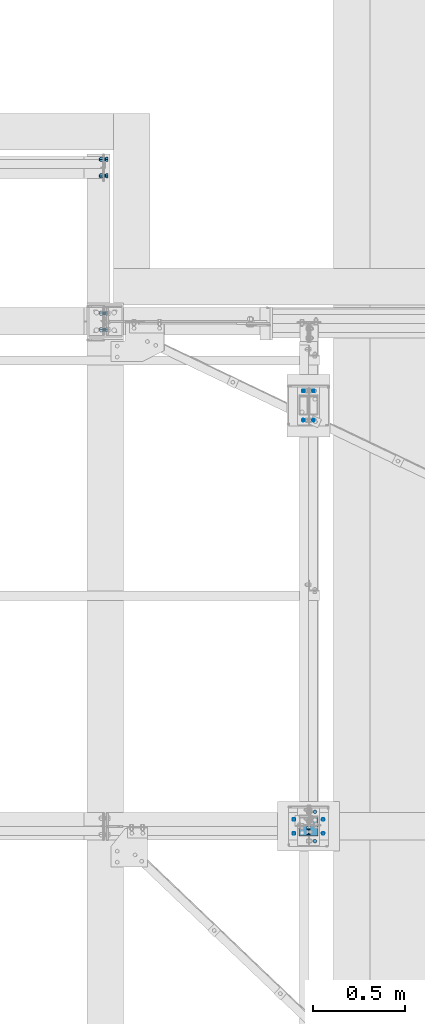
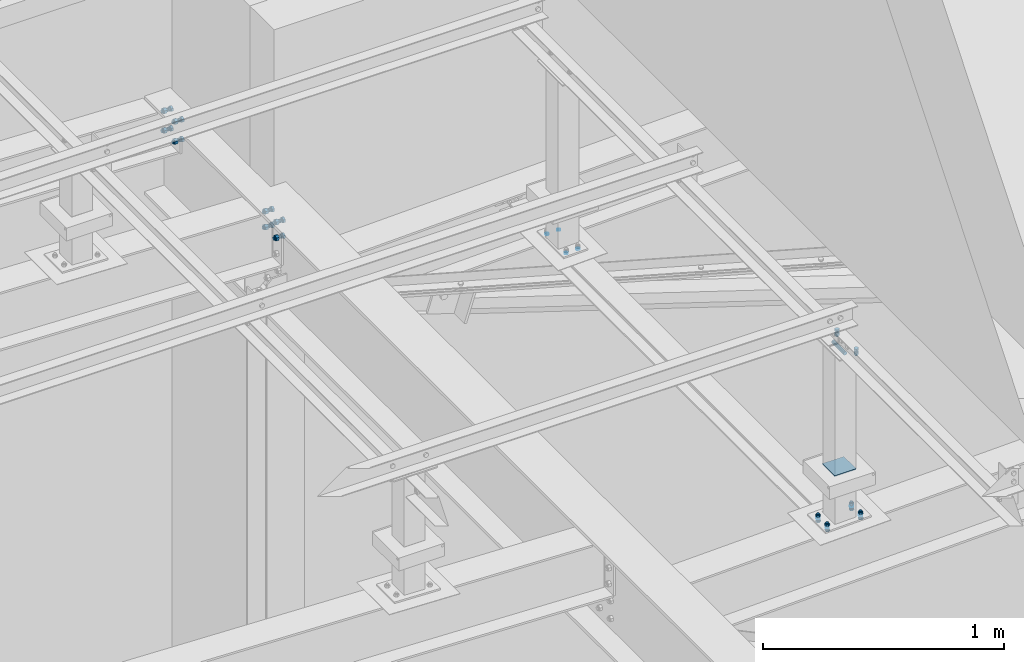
# One storey, part 219 of 3134: 10 mechanical fasteners, 6 elements without a shape of their own.
"""IFC2X3 building model written with IfcOpenShell, lengths in millimetres."""

from ifc_helpers import new_model, si_unit, frame, origin_with_axes, place, context, subcontext, project, spatial, faceted_brep, source, transform, mapped, material, type_object, element, aggregate, save


model = new_model("IFC2X3")

# Units and contexts
model_context = context("Model", 3, precision=1e-05, world=origin_with_axes())
body_context = subcontext(model_context, "Body", "Model", "MODEL_VIEW")
ifc_project = project(units=[si_unit("LENGTHUNIT", "METRE", prefix="MILLI"), si_unit("AREAUNIT", "SQUARE_METRE"), si_unit("VOLUMEUNIT", "CUBIC_METRE"), si_unit("MASSUNIT", "GRAM", prefix="KILO"), si_unit("TIMEUNIT", "SECOND"), si_unit("PLANEANGLEUNIT", "RADIAN"), si_unit("SOLIDANGLEUNIT", "STERADIAN"), si_unit("THERMODYNAMICTEMPERATUREUNIT", "DEGREE_CELSIUS"), si_unit("LUMINOUSINTENSITYUNIT", "LUMEN")], contexts=[model_context])

# Site, building, storey
site_placement = place(None, origin_with_axes())
site = spatial("IfcSite", under=ifc_project, at=site_placement, CompositionType="ELEMENT")
building_placement = place(site_placement, origin_with_axes())
building = spatial("IfcBuilding", under=site, at=building_placement, Name="Undefined", CompositionType="ELEMENT")
storey_placement = place(building_placement, origin_with_axes())
storey = spatial("IfcBuildingStorey", under=building, at=storey_placement, Name="Undefined", CompositionType="ELEMENT", Elevation=0.0)

# Assembly, mechanical fastener
assembly_1_placement = place(storey_placement, origin_with_axes())
assembly_1 = element("IfcElementAssembly", 1, at=assembly_1_placement, inside=storey, AssemblyPlace="NOTDEFINED", PredefinedType="RIGID_FRAME")
ifc_material_1 = material(Name="8.8")
mechanical_fastener_type = type_object("IfcMechanicalFastenerType", Name="Bolt assembly")
shared_shape_1 = source(origin_with_axes(), body_context, "Body", "Brep", [
    faceted_brep([(10.9696551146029, -14.0, 0.0), (5.48482755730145, -14.0, 9.5), (-5.48482755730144, -14.0, 9.5), (-10.9696551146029, -14.0, 1.34339530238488e-15), (-5.48482755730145, -14.0, -9.5), (5.48482755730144, -14.0, -9.50000000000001), (5.48482755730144, -6.0, -9.50000000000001), (-5.48482755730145, -6.0, -9.5), (-10.9696551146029, -6.0, 1.34339530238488e-15), (-5.48482755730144, -6.0, 9.5), (5.48482755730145, -6.0, 9.5), (10.9696551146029, -6.0, 0.0), (6.0, -6.0, 0.0), (5.19615242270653, -6.0, 3.00000000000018), (2.99999999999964, -6.0, 5.19615242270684), (-6.21801588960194e-13, -6.0, 6.0), (-3.00000000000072, -6.0, 5.19615242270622), (-5.19615242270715, -6.0, 2.9999999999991), (-6.0, -6.0, -1.24360317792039e-12), (-5.19615242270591, -6.0, -3.00000000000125), (-2.99999999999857, -6.0, -5.19615242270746), (1.85874342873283e-12, -6.0, -6.0), (3.00000000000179, -6.0, -5.1961524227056), (5.19615242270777, -6.0, -2.99999999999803), (5.19615242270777, 24.0, -2.99999999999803), (3.00000000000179, 24.0, -5.1961524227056), (1.85874342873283e-12, 24.0, -6.0), (-2.99999999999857, 24.0, -5.19615242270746), (-5.19615242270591, 24.0, -3.00000000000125), (-6.0, 24.0, -1.24360317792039e-12), (-5.19615242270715, 24.0, 2.9999999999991), (-3.00000000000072, 24.0, 5.19615242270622), (-6.21801588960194e-13, 24.0, 6.0), (2.99999999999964, 24.0, 5.19615242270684), (5.19615242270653, 24.0, 3.00000000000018), (6.0, 24.0, 0.0), (10.9696551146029, 6.00000000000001, 0.0), (5.48482755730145, 6.00000000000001, 9.5), (-5.48482755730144, 6.00000000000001, 9.5), (-10.9696551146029, 6.00000000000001, 1.34339530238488e-15), (-5.48482755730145, 6.00000000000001, -9.5), (5.48482755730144, 6.00000000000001, -9.50000000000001), (5.48482755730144, 16.0, -9.50000000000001), (-5.48482755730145, 16.0, -9.5), (-10.9696551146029, 16.0, 1.34339530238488e-15), (-5.48482755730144, 16.0, 9.5), (5.48482755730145, 16.0, 9.5), (10.9696551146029, 16.0, 0.0)], [[[0, 1, 2, 3, 4, 5]], [[6, 7, 8, 9, 10, 11]], [[0, 11, 10, 1]], [[1, 10, 9, 2]], [[2, 9, 8, 3]], [[3, 8, 7, 4]], [[4, 7, 6, 5]], [[5, 6, 11, 0]], [[12, 13, 14, 15, 16, 17, 18, 19, 20, 21, 22, 23]], [[24, 25, 26, 27, 28, 29, 30, 31, 32, 33, 34, 35]], [[12, 35, 34, 13]], [[13, 34, 33, 14]], [[14, 33, 32, 15]], [[15, 32, 31, 16]], [[16, 31, 30, 17]], [[17, 30, 29, 18]], [[18, 29, 28, 19]], [[19, 28, 27, 20]], [[20, 27, 26, 21]], [[21, 26, 25, 22]], [[22, 25, 24, 23]], [[23, 24, 35, 12]], [[36, 37, 38, 39, 40, 41]], [[42, 43, 44, 45, 46, 47]], [[36, 47, 46, 37]], [[37, 46, 45, 38]], [[38, 45, 44, 39]], [[39, 44, 43, 40]], [[40, 43, 42, 41]], [[41, 42, 47, 36]]]),
    faceted_brep([(7.0, -0.1, 0.0), (6.06217782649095, -0.1, 3.50000000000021), (3.49999999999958, -0.1, 6.06217782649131), (-7.25435187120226e-13, -0.1, 7.0), (-3.50000000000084, -0.1, 6.06217782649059), (-6.06217782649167, -0.1, 3.49999999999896), (-7.0, -0.1, -1.45087037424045e-12), (-6.06217782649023, -0.1, -3.50000000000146), (-3.49999999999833, -0.1, -6.06217782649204), (2.1685340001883e-12, -0.1, -7.0), (3.50000000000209, -0.1, -6.06217782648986), (6.0621778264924, -0.1, -3.4999999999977), (6.0621778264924, 6.00000000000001, -3.4999999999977), (3.50000000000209, 6.00000000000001, -6.06217782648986), (2.1685340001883e-12, 6.00000000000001, -7.0), (-3.49999999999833, 6.00000000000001, -6.06217782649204), (-6.06217782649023, 6.00000000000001, -3.50000000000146), (-7.0, 6.00000000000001, -1.45087037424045e-12), (-6.06217782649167, 6.00000000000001, 3.49999999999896), (-3.50000000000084, 6.00000000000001, 6.06217782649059), (-7.25435187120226e-13, 6.00000000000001, 7.0), (3.49999999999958, 6.00000000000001, 6.06217782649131), (6.06217782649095, 6.00000000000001, 3.50000000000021), (7.0, 6.00000000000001, 0.0), (7.0, -5.9, 0.0), (6.06217782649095, -5.9, 3.50000000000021), (3.49999999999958, -5.9, 6.06217782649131), (-7.25435187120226e-13, -5.9, 7.0), (-3.50000000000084, -5.9, 6.06217782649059), (-6.06217782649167, -5.9, 3.49999999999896), (-7.0, -5.9, -1.45087037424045e-12), (-6.06217782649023, -5.9, -3.50000000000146), (-3.49999999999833, -5.9, -6.06217782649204), (2.1685340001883e-12, -5.9, -7.0), (3.50000000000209, -5.9, -6.06217782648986), (6.0621778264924, -5.9, -3.4999999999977), (6.0621778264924, 0.0999999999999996, -3.4999999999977), (3.50000000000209, 0.0999999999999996, -6.06217782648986), (2.1685340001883e-12, 0.0999999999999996, -7.0), (-3.49999999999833, 0.0999999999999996, -6.06217782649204), (-6.06217782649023, 0.0999999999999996, -3.50000000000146), (-7.0, 0.0999999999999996, -1.45087037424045e-12), (-6.06217782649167, 0.0999999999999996, 3.49999999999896), (-3.50000000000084, 0.0999999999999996, 6.06217782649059), (-7.25435187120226e-13, 0.0999999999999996, 7.0), (3.49999999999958, 0.0999999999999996, 6.06217782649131), (6.06217782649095, 0.0999999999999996, 3.50000000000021), (7.0, 0.0999999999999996, 0.0)], [[[0, 1, 2, 3, 4, 5, 6, 7, 8, 9, 10, 11]], [[12, 13, 14, 15, 16, 17, 18, 19, 20, 21, 22, 23]], [[0, 23, 22, 1]], [[1, 22, 21, 2]], [[2, 21, 20, 3]], [[3, 20, 19, 4]], [[4, 19, 18, 5]], [[5, 18, 17, 6]], [[6, 17, 16, 7]], [[7, 16, 15, 8]], [[8, 15, 14, 9]], [[9, 14, 13, 10]], [[10, 13, 12, 11]], [[11, 12, 23, 0]], [[24, 25, 26, 27, 28, 29, 30, 31, 32, 33, 34, 35]], [[36, 37, 38, 39, 40, 41, 42, 43, 44, 45, 46, 47]], [[24, 47, 46, 25]], [[25, 46, 45, 26]], [[26, 45, 44, 27]], [[27, 44, 43, 28]], [[28, 43, 42, 29]], [[29, 42, 41, 30]], [[30, 41, 40, 31]], [[31, 40, 39, 32]], [[32, 39, 38, 33]], [[33, 38, 37, 34]], [[34, 37, 36, 35]], [[35, 36, 47, 24]]]),
])
mechanical_fastener_1_placement = place(assembly_1_placement, frame((10440.0, 45766.66, 4265.0), z_axis=(0.0, -1.0, 0.0), x_axis=(-1.0, 0.0, 0.0)))
mechanical_fastener_1 = element("IfcMechanicalFastener", 2, at=mechanical_fastener_1_placement, type_object=mechanical_fastener_type, material=ifc_material_1, Name="Bolt assembly", NominalDiameter=12.0, NominalLength=30.0, context=body_context, shape_type="MappedRepresentation", body=[
    mapped(shared_shape_1, transform((0.0, -5.32963895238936e-10, -79.9999999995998))),
    mapped(shared_shape_1, transform((0.0, 5.3114490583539e-10, 79.9999999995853))),
])
aggregate(assembly_1, [mechanical_fastener_1])

# Assembly, mechanical fasteners
assembly_2_placement = place(storey_placement, origin_with_axes())
assembly_2 = element("IfcElementAssembly", 3, at=assembly_2_placement, inside=storey, Name="IPE500", AssemblyPlace="NOTDEFINED", PredefinedType="RIGID_FRAME")
shared_shape_2 = source(origin_with_axes(), body_context, "Body", "Brep", [
    faceted_brep([(13.856406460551, 0.0, 0.0), (6.92820323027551, 0.0, 12.0), (-6.92820323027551, 0.0, 12.0), (-13.856406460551, 0.0, 1.69692038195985e-15), (-6.92820323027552, 0.0, -12.0), (6.9282032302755, 0.0, -12.0), (6.9282032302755, 9.99999995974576, -12.0), (-6.92820323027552, 9.99999995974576, -12.0), (-13.856406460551, 9.99999995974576, 1.69692038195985e-15), (-6.92820323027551, 9.99999995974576, 12.0), (6.92820323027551, 9.99999995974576, 12.0), (13.856406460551, 9.99999995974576, 0.0), (8.0, 9.99999995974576, 0.0), (6.92820323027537, 9.99999995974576, 4.00000000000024), (3.99999999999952, 9.99999995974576, 6.92820323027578), (-8.29068785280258e-13, 9.99999995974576, 8.0), (-4.00000000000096, 9.99999995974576, 6.92820323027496), (-6.9282032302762, 9.99999995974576, 3.99999999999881), (-8.0, 9.99999995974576, -1.65813757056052e-12), (-6.92820323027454, 9.99999995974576, -4.00000000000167), (-3.99999999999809, 9.99999995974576, -6.92820323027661), (2.47832457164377e-12, 9.99999995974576, -8.0), (4.00000000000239, 9.99999995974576, -6.92820323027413), (6.92820323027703, 9.99999995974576, -3.99999999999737), (6.92820323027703, 49.9999999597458, -3.99999999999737), (4.00000000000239, 49.9999999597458, -6.92820323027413), (2.47832457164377e-12, 49.9999999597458, -8.0), (-3.99999999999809, 49.9999999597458, -6.92820323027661), (-6.92820323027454, 49.9999999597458, -4.00000000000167), (-8.0, 49.9999999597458, -1.65813757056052e-12), (-6.9282032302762, 49.9999999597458, 3.99999999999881), (-4.00000000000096, 49.9999999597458, 6.92820323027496), (-8.29068785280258e-13, 49.9999999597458, 8.0), (3.99999999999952, 49.9999999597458, 6.92820323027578), (6.92820323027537, 49.9999999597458, 4.00000000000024), (8.0, 49.9999999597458, 0.0), (13.856406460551, 30.1999997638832, 0.0), (6.92820323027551, 30.1999997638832, 12.0), (-6.92820323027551, 30.1999997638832, 12.0), (-13.856406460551, 30.1999997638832, 1.69692038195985e-15), (-6.92820323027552, 30.1999997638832, -12.0), (6.9282032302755, 30.1999997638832, -12.0), (6.9282032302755, 43.1999997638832, -12.0), (-6.92820323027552, 43.1999997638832, -12.0), (-13.856406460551, 43.1999997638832, 1.69692038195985e-15), (-6.92820323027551, 43.1999997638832, 12.0), (6.92820323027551, 43.1999997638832, 12.0), (13.856406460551, 43.1999997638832, 0.0)], [[[0, 1, 2, 3, 4, 5]], [[6, 7, 8, 9, 10, 11]], [[0, 11, 10, 1]], [[1, 10, 9, 2]], [[2, 9, 8, 3]], [[3, 8, 7, 4]], [[4, 7, 6, 5]], [[5, 6, 11, 0]], [[12, 13, 14, 15, 16, 17, 18, 19, 20, 21, 22, 23]], [[24, 25, 26, 27, 28, 29, 30, 31, 32, 33, 34, 35]], [[12, 35, 34, 13]], [[13, 34, 33, 14]], [[14, 33, 32, 15]], [[15, 32, 31, 16]], [[16, 31, 30, 17]], [[17, 30, 29, 18]], [[18, 29, 28, 19]], [[19, 28, 27, 20]], [[20, 27, 26, 21]], [[21, 26, 25, 22]], [[22, 25, 24, 23]], [[23, 24, 35, 12]], [[36, 37, 38, 39, 40, 41]], [[42, 43, 44, 45, 46, 47]], [[36, 47, 46, 37]], [[37, 46, 45, 38]], [[38, 45, 44, 39]], [[39, 44, 43, 40]], [[40, 43, 42, 41]], [[41, 42, 47, 36]]]),
    faceted_brep([(9.0, 20.0999997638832, 0.0), (7.79422863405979, 20.0999997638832, 4.50000000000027), (4.49999999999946, 20.0999997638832, 7.79422863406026), (-9.3270238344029e-13, 20.0999997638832, 9.0), (-4.50000000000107, 20.0999997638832, 7.79422863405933), (-7.79422863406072, 20.0999997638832, 4.49999999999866), (-9.0, 20.0999997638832, -1.86540476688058e-12), (-7.79422863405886, 20.0999997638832, -4.50000000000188), (-4.49999999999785, 20.0999997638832, -7.79422863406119), (2.78811514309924e-12, 20.0999997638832, -9.0), (4.50000000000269, 20.0999997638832, -7.7942286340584), (7.79422863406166, 20.0999997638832, -4.49999999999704), (7.79422863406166, 30.1999997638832, -4.49999999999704), (4.50000000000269, 30.1999997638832, -7.7942286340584), (2.78811514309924e-12, 30.1999997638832, -9.0), (-4.49999999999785, 30.1999997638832, -7.79422863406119), (-7.79422863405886, 30.1999997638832, -4.50000000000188), (-9.0, 30.1999997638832, -1.86540476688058e-12), (-7.79422863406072, 30.1999997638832, 4.49999999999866), (-4.50000000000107, 30.1999997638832, 7.79422863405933), (-9.3270238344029e-13, 30.1999997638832, 9.0), (4.49999999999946, 30.1999997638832, 7.79422863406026), (7.79422863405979, 30.1999997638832, 4.50000000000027), (9.0, 30.1999997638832, 0.0), (9.0, 10.1000023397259, 0.0), (7.79422863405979, 10.1000023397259, 4.50000000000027), (4.49999999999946, 10.1000023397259, 7.79422863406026), (-9.3270238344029e-13, 10.1000023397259, 9.0), (-4.50000000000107, 10.1000023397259, 7.79422863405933), (-7.79422863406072, 10.1000023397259, 4.49999999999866), (-9.0, 10.1000023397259, -1.86540476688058e-12), (-7.79422863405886, 10.1000023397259, -4.50000000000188), (-4.49999999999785, 10.1000023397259, -7.79422863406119), (2.78811514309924e-12, 10.1000023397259, -9.0), (4.50000000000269, 10.1000023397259, -7.7942286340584), (7.79422863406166, 10.1000023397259, -4.49999999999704), (7.79422863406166, 20.2999997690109, -4.49999999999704), (4.50000000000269, 20.2999997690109, -7.7942286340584), (2.78811514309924e-12, 20.2999997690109, -9.0), (-4.49999999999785, 20.2999997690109, -7.79422863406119), (-7.79422863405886, 20.2999997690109, -4.50000000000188), (-9.0, 20.2999997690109, -1.86540476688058e-12), (-7.79422863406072, 20.2999997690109, 4.49999999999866), (-4.50000000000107, 20.2999997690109, 7.79422863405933), (-9.3270238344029e-13, 20.2999997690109, 9.0), (4.49999999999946, 20.2999997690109, 7.79422863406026), (7.79422863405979, 20.2999997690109, 4.50000000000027), (9.0, 20.2999997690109, 0.0)], [[[0, 1, 2, 3, 4, 5, 6, 7, 8, 9, 10, 11]], [[12, 13, 14, 15, 16, 17, 18, 19, 20, 21, 22, 23]], [[0, 23, 22, 1]], [[1, 22, 21, 2]], [[2, 21, 20, 3]], [[3, 20, 19, 4]], [[4, 19, 18, 5]], [[5, 18, 17, 6]], [[6, 17, 16, 7]], [[7, 16, 15, 8]], [[8, 15, 14, 9]], [[9, 14, 13, 10]], [[10, 13, 12, 11]], [[11, 12, 23, 0]], [[24, 25, 26, 27, 28, 29, 30, 31, 32, 33, 34, 35]], [[36, 37, 38, 39, 40, 41, 42, 43, 44, 45, 46, 47]], [[24, 47, 46, 25]], [[25, 46, 45, 26]], [[26, 45, 44, 27]], [[27, 44, 43, 28]], [[28, 43, 42, 29]], [[29, 42, 41, 30]], [[30, 41, 40, 31]], [[31, 40, 39, 32]], [[32, 39, 38, 33]], [[33, 38, 37, 34]], [[34, 37, 36, 35]], [[35, 36, 47, 24]]]),
])
mechanical_fastener_2_placement = place(assembly_2_placement, frame((9310.09999986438, 49320.0, 3631.67000001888), z_axis=(0.0, 1.0, 0.0), x_axis=(0.0, 0.0, -1.0)))
mechanical_fastener_2 = element("IfcMechanicalFastener", 4, at=mechanical_fastener_2_placement, type_object=mechanical_fastener_type, material=ifc_material_1, Name="Bolt assembly", NominalDiameter=16.0, NominalLength=40.0, context=body_context, shape_type="MappedRepresentation", body=[
    mapped(shared_shape_2, transform((0.0, 0.0, 0.0))),
    mapped(shared_shape_2, transform((100.0, 0.0, 0.0))),
])
mechanical_fastener_3_placement = place(assembly_2_placement, frame((9310.09999986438, 49410.0, 3631.67000001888), z_axis=(0.0, 1.0, 0.0), x_axis=(0.0, 0.0, -1.0)))
mechanical_fastener_3 = element("IfcMechanicalFastener", 5, at=mechanical_fastener_3_placement, type_object=mechanical_fastener_type, material=ifc_material_1, Name="Bolt assembly", NominalDiameter=16.0, NominalLength=40.0, context=body_context, shape_type="MappedRepresentation", body=[
    mapped(shared_shape_2, transform((0.0, 0.0, 0.0))),
    mapped(shared_shape_2, transform((100.0, 0.0, 0.0))),
])
mechanical_fastener_4_placement = place(assembly_2_placement, frame((9310.09999986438, 48480.0, 3631.67000001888), z_axis=(0.0, 1.0, 0.0), x_axis=(0.0, 0.0, -1.0)))
mechanical_fastener_4 = element("IfcMechanicalFastener", 6, at=mechanical_fastener_4_placement, type_object=mechanical_fastener_type, material=ifc_material_1, Name="Bolt assembly", NominalDiameter=16.0, NominalLength=40.0, context=body_context, shape_type="MappedRepresentation", body=[
    mapped(shared_shape_2, transform((0.0, 0.0, 0.0))),
    mapped(shared_shape_2, transform((80.0, 0.0, 0.0))),
])
mechanical_fastener_5_placement = place(assembly_2_placement, frame((9310.09999986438, 48570.0, 3631.67000001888), z_axis=(0.0, 1.0, 0.0), x_axis=(0.0, 0.0, -1.0)))
mechanical_fastener_5 = element("IfcMechanicalFastener", 7, at=mechanical_fastener_5_placement, type_object=mechanical_fastener_type, material=ifc_material_1, Name="Bolt assembly", NominalDiameter=16.0, NominalLength=40.0, context=body_context, shape_type="MappedRepresentation", body=[
    mapped(shared_shape_2, transform((0.0, 0.0, 0.0))),
    mapped(shared_shape_2, transform((80.0, 0.0, 0.0))),
])
aggregate(assembly_2, [mechanical_fastener_2, mechanical_fastener_3, mechanical_fastener_4, mechanical_fastener_5])

# Assembly, mechanical fastener
assembly_3_placement = place(storey_placement, origin_with_axes())
assembly_3 = element("IfcElementAssembly", 8, at=assembly_3_placement, inside=storey, Name="300", AssemblyPlace="NOTDEFINED", PredefinedType="RIGID_FRAME")
shared_shape_3 = source(origin_with_axes(), body_context, "Body", "Brep", [
    faceted_brep([(10.9696551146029, -4.1984682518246, 0.0), (5.48482755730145, -4.1984682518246, 9.5), (-5.48482755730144, -4.1984682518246, 9.5), (-10.9696551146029, -4.1984682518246, 1.34339530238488e-15), (-5.48482755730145, -4.1984682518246, -9.5), (5.48482755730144, -4.1984682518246, -9.50000000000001), (5.48482755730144, 3.8015317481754, -9.50000000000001), (-5.48482755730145, 3.8015317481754, -9.5), (-10.9696551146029, 3.8015317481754, 1.34339530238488e-15), (-5.48482755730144, 3.8015317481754, 9.5), (5.48482755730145, 3.8015317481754, 9.5), (10.9696551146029, 3.8015317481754, 0.0), (6.0, 3.8015317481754, 0.0), (5.19615242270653, 3.8015317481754, 3.00000000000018), (2.99999999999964, 3.8015317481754, 5.19615242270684), (-6.21801588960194e-13, 3.8015317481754, 6.0), (-3.00000000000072, 3.8015317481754, 5.19615242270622), (-5.19615242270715, 3.8015317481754, 2.9999999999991), (-6.0, 3.8015317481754, -1.24360317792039e-12), (-5.19615242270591, 3.8015317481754, -3.00000000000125), (-2.99999999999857, 3.8015317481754, -5.19615242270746), (1.85874342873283e-12, 3.8015317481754, -6.0), (3.00000000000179, 3.8015317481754, -5.1961524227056), (5.19615242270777, 3.8015317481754, -2.99999999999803), (5.19615242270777, 38.8015317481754, -2.99999999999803), (3.00000000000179, 38.8015317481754, -5.1961524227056), (1.85874342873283e-12, 38.8015317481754, -6.0), (-2.99999999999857, 38.8015317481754, -5.19615242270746), (-5.19615242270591, 38.8015317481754, -3.00000000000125), (-6.0, 38.8015317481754, -1.24360317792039e-12), (-5.19615242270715, 38.8015317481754, 2.9999999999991), (-3.00000000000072, 38.8015317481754, 5.19615242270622), (-6.21801588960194e-13, 38.8015317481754, 6.0), (2.99999999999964, 38.8015317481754, 5.19615242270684), (5.19615242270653, 38.8015317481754, 3.00000000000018), (6.0, 38.8015317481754, 0.0), (10.9696551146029, 23.0039050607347, 0.0), (5.48482755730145, 23.0039050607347, 9.5), (-5.48482755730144, 23.0039050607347, 9.5), (-10.9696551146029, 23.0039050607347, 1.34339530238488e-15), (-5.48482755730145, 23.0039050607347, -9.5), (5.48482755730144, 23.0039050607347, -9.50000000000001), (5.48482755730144, 33.0039050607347, -9.50000000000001), (-5.48482755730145, 33.0039050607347, -9.5), (-10.9696551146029, 33.0039050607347, 1.34339530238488e-15), (-5.48482755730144, 33.0039050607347, 9.5), (5.48482755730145, 33.0039050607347, 9.5), (10.9696551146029, 33.0039050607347, 0.0)], [[[0, 1, 2, 3, 4, 5]], [[6, 7, 8, 9, 10, 11]], [[0, 11, 10, 1]], [[1, 10, 9, 2]], [[2, 9, 8, 3]], [[3, 8, 7, 4]], [[4, 7, 6, 5]], [[5, 6, 11, 0]], [[12, 13, 14, 15, 16, 17, 18, 19, 20, 21, 22, 23]], [[24, 25, 26, 27, 28, 29, 30, 31, 32, 33, 34, 35]], [[12, 35, 34, 13]], [[13, 34, 33, 14]], [[14, 33, 32, 15]], [[15, 32, 31, 16]], [[16, 31, 30, 17]], [[17, 30, 29, 18]], [[18, 29, 28, 19]], [[19, 28, 27, 20]], [[20, 27, 26, 21]], [[21, 26, 25, 22]], [[22, 25, 24, 23]], [[23, 24, 35, 12]], [[36, 37, 38, 39, 40, 41]], [[42, 43, 44, 45, 46, 47]], [[36, 47, 46, 37]], [[37, 46, 45, 38]], [[38, 45, 44, 39]], [[39, 44, 43, 40]], [[40, 43, 42, 41]], [[41, 42, 47, 36]]]),
    faceted_brep([(7.0, 14.9039050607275, 0.0), (6.06217782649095, 14.9039050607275, 3.50000000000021), (3.49999999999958, 14.9039050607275, 6.06217782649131), (-7.25435187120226e-13, 14.9039050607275, 7.0), (-3.50000000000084, 14.9039050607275, 6.06217782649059), (-6.06217782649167, 14.9039050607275, 3.49999999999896), (-7.0, 14.9039050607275, -1.45087037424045e-12), (-6.06217782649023, 14.9039050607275, -3.50000000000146), (-3.49999999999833, 14.9039050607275, -6.06217782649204), (2.1685340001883e-12, 14.9039050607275, -7.0), (3.50000000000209, 14.9039050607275, -6.06217782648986), (6.0621778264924, 14.9039050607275, -3.4999999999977), (6.0621778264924, 23.0039050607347, -3.4999999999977), (3.50000000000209, 23.0039050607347, -6.06217782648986), (2.1685340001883e-12, 23.0039050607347, -7.0), (-3.49999999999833, 23.0039050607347, -6.06217782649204), (-6.06217782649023, 23.0039050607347, -3.50000000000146), (-7.0, 23.0039050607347, -1.45087037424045e-12), (-6.06217782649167, 23.0039050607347, 3.49999999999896), (-3.50000000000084, 23.0039050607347, 6.06217782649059), (-7.25435187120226e-13, 23.0039050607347, 7.0), (3.49999999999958, 23.0039050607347, 6.06217782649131), (6.06217782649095, 23.0039050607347, 3.50000000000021), (7.0, 23.0039050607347, 0.0), (7.0, 3.9015317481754, 0.0), (6.06217782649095, 3.9015317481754, 3.50000000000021), (3.49999999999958, 3.9015317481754, 6.06217782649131), (-7.25435187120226e-13, 3.9015317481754, 7.0), (-3.50000000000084, 3.9015317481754, 6.06217782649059), (-6.06217782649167, 3.9015317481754, 3.49999999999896), (-7.0, 3.9015317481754, -1.45087037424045e-12), (-6.06217782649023, 3.9015317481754, -3.50000000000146), (-3.49999999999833, 3.9015317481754, -6.06217782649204), (2.1685340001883e-12, 3.9015317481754, -7.0), (3.50000000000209, 3.9015317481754, -6.06217782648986), (6.0621778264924, 3.9015317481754, -3.4999999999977), (6.0621778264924, 13.1015315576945, -3.4999999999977), (3.50000000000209, 13.1015315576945, -6.06217782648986), (2.1685340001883e-12, 13.1015315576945, -7.0), (-3.49999999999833, 13.1015315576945, -6.06217782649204), (-6.06217782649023, 13.1015315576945, -3.50000000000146), (-7.0, 13.1015315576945, -1.45087037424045e-12), (-6.06217782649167, 13.1015315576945, 3.49999999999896), (-3.50000000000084, 13.1015315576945, 6.06217782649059), (-7.25435187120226e-13, 13.1015315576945, 7.0), (3.49999999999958, 13.1015315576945, 6.06217782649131), (6.06217782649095, 13.1015315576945, 3.50000000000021), (7.0, 13.1015315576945, 0.0)], [[[0, 1, 2, 3, 4, 5, 6, 7, 8, 9, 10, 11]], [[12, 13, 14, 15, 16, 17, 18, 19, 20, 21, 22, 23]], [[0, 23, 22, 1]], [[1, 22, 21, 2]], [[2, 21, 20, 3]], [[3, 20, 19, 4]], [[4, 19, 18, 5]], [[5, 18, 17, 6]], [[6, 17, 16, 7]], [[7, 16, 15, 8]], [[8, 15, 14, 9]], [[9, 14, 13, 10]], [[10, 13, 12, 11]], [[11, 12, 23, 0]], [[24, 25, 26, 27, 28, 29, 30, 31, 32, 33, 34, 35]], [[36, 37, 38, 39, 40, 41, 42, 43, 44, 45, 46, 47]], [[24, 47, 46, 25]], [[25, 46, 45, 26]], [[26, 45, 44, 27]], [[27, 44, 43, 28]], [[28, 43, 42, 29]], [[29, 42, 41, 30]], [[30, 41, 40, 31]], [[31, 40, 39, 32]], [[32, 39, 38, 33]], [[33, 38, 37, 34]], [[34, 37, 36, 35]], [[35, 36, 47, 24]]]),
])
mechanical_fastener_6_placement = place(assembly_3_placement, frame((10405.7748812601, 45728.66, 3374.2272055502), z_axis=(0.999519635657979, 0.0, 0.0309919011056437), x_axis=(0.0, 1.0, 0.0)))
mechanical_fastener_6 = element("IfcMechanicalFastener", 9, at=mechanical_fastener_6_placement, type_object=mechanical_fastener_type, material=ifc_material_1, Name="Bolt assembly", NominalDiameter=12.0, NominalLength=35.0, context=body_context, shape_type="MappedRepresentation", body=[
    mapped(shared_shape_3, transform((0.0, -5.32963895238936e-10, -79.9999999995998))),
    mapped(shared_shape_3, transform((76.0, -5.32963895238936e-10, -79.9999999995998))),
    mapped(shared_shape_3, transform((0.0, 5.3114490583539e-10, 79.9999999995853))),
    mapped(shared_shape_3, transform((76.0, 5.3114490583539e-10, 79.9999999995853))),
])
aggregate(assembly_3, [mechanical_fastener_6])

assembly_4_placement = place(storey_placement, origin_with_axes())
assembly_4 = element("IfcElementAssembly", 10, at=assembly_4_placement, inside=storey, AssemblyPlace="NOTDEFINED", PredefinedType="RIGID_FRAME")
shared_shape_4 = source(origin_with_axes(), body_context, "Body", "Brep", [
    faceted_brep([(7.0, 13.0000253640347, 0.0), (6.06217782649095, 13.0000253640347, 3.50000000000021), (3.49999999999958, 13.0000253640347, 6.06217782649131), (-7.25435187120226e-13, 13.0000253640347, 7.0), (-3.50000000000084, 13.0000253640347, 6.06217782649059), (-6.06217782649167, 13.0000253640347, 3.49999999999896), (-7.0, 13.0000253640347, -1.45087037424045e-12), (-6.06217782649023, 13.0000253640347, -3.50000000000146), (-3.49999999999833, 13.0000253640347, -6.06217782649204), (2.1685340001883e-12, 13.0000253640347, -7.0), (3.50000000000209, 13.0000253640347, -6.06217782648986), (6.0621778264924, 13.0000253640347, -3.4999999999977), (6.0621778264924, 15.0999999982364, -3.4999999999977), (3.50000000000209, 15.0999999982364, -6.06217782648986), (2.1685340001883e-12, 15.0999999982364, -7.0), (-3.49999999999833, 15.0999999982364, -6.06217782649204), (-6.06217782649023, 15.0999999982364, -3.50000000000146), (-7.0, 15.0999999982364, -1.45087037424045e-12), (-6.06217782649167, 15.0999999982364, 3.49999999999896), (-3.50000000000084, 15.0999999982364, 6.06217782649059), (-7.25435187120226e-13, 15.0999999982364, 7.0), (3.49999999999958, 15.0999999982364, 6.06217782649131), (6.06217782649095, 15.0999999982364, 3.50000000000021), (7.0, 15.0999999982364, 0.0)], [[[0, 1, 2, 3, 4, 5, 6, 7, 8, 9, 10, 11]], [[12, 13, 14, 15, 16, 17, 18, 19, 20, 21, 22, 23]], [[0, 23, 22, 1]], [[1, 22, 21, 2]], [[2, 21, 20, 3]], [[3, 20, 19, 4]], [[4, 19, 18, 5]], [[5, 18, 17, 6]], [[6, 17, 16, 7]], [[7, 16, 15, 8]], [[8, 15, 14, 9]], [[9, 14, 13, 10]], [[10, 13, 12, 11]], [[11, 12, 23, 0]]]),
])
mechanical_fastener_7_placement = place(assembly_4_placement, frame((10433.639796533, 48064.9983647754, 3375.07493090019), z_axis=(0.0, 1.0, 0.0), x_axis=(-0.999519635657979, 0.0, -0.0309919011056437)))
mechanical_fastener_7 = element("IfcMechanicalFastener", 11, at=mechanical_fastener_7_placement, type_object=mechanical_fastener_type, material=ifc_material_1, Name="Bolt assembly", NominalDiameter=12.0, NominalLength=2.0, context=body_context, shape_type="MappedRepresentation", body=[
    mapped(shared_shape_4, transform((0.0, 5.3114490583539e-10, 79.9999999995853))),
    mapped(shared_shape_4, transform((55.9999999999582, 4.54747350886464e-13, 80.0))),
    mapped(shared_shape_4, transform((0.0, -5.32963895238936e-10, -79.9999999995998))),
    mapped(shared_shape_4, transform((55.9999999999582, 4.54747350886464e-13, -80.0))),
])
aggregate(assembly_4, [mechanical_fastener_7])

assembly_5_placement = place(storey_placement, origin_with_axes())
assembly_5 = element("IfcElementAssembly", 12, at=assembly_5_placement, inside=storey, AssemblyPlace="NOTDEFINED", PredefinedType="RIGID_FRAME")
mechanical_fastener_8_placement = place(assembly_5_placement, frame((10405.7748812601, 45728.66, 3374.2272055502), z_axis=(0.999519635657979, 0.0, 0.0309919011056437), x_axis=(0.0, 1.0, 0.0)))
mechanical_fastener_8 = element("IfcMechanicalFastener", 13, at=mechanical_fastener_8_placement, type_object=mechanical_fastener_type, material=ifc_material_1, Name="Bolt assembly", NominalDiameter=12.0, NominalLength=2.0, context=body_context, shape_type="MappedRepresentation", body=[
    mapped(shared_shape_4, transform((0.0, -5.32963895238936e-10, -79.9999999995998))),
    mapped(shared_shape_4, transform((76.0, -5.32963895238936e-10, -79.9999999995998))),
    mapped(shared_shape_4, transform((0.0, 5.3114490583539e-10, 79.9999999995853))),
    mapped(shared_shape_4, transform((76.0, 5.3114490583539e-10, 79.9999999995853))),
])
aggregate(assembly_5, [mechanical_fastener_8])

# Assembly, mechanical fasteners
assembly_6_placement = place(storey_placement, origin_with_axes())
assembly_6 = element("IfcElementAssembly", 14, at=assembly_6_placement, inside=storey, AssemblyPlace="NOTDEFINED", PredefinedType="RIGID_FRAME")
shared_shape_5 = source(origin_with_axes(), body_context, "Body", "Brep", [
    faceted_brep([(9.0, -50.0, 0.0), (7.79422863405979, -50.0, 4.50000000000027), (4.49999999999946, -50.0, 7.79422863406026), (-9.3270238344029e-13, -50.0, 9.0), (-4.50000000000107, -50.0, 7.79422863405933), (-7.79422863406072, -50.0, 4.49999999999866), (-9.0, -50.0, -1.86540476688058e-12), (-7.79422863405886, -50.0, -4.50000000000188), (-4.49999999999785, -50.0, -7.79422863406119), (2.78811514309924e-12, -50.0, -9.0), (4.50000000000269, -50.0, -7.7942286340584), (7.79422863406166, -50.0, -4.49999999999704), (7.79422863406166, 50.1, -4.49999999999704), (4.50000000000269, 50.1, -7.7942286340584), (2.78811514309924e-12, 50.1, -9.0), (-4.49999999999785, 50.1, -7.79422863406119), (-7.79422863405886, 50.1, -4.50000000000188), (-9.0, 50.1, -1.86540476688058e-12), (-7.79422863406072, 50.1, 4.49999999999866), (-4.50000000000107, 50.1, 7.79422863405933), (-9.3270238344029e-13, 50.1, 9.0), (4.49999999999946, 50.1, 7.79422863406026), (7.79422863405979, 50.1, 4.50000000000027), (9.0, 50.1, 0.0)], [[[0, 1, 2, 3, 4, 5, 6, 7, 8, 9, 10, 11]], [[12, 13, 14, 15, 16, 17, 18, 19, 20, 21, 22, 23]], [[0, 23, 22, 1]], [[1, 22, 21, 2]], [[2, 21, 20, 3]], [[3, 20, 19, 4]], [[4, 19, 18, 5]], [[5, 18, 17, 6]], [[6, 17, 16, 7]], [[7, 16, 15, 8]], [[8, 15, 14, 9]], [[9, 14, 13, 10]], [[10, 13, 12, 11]], [[11, 12, 23, 0]]]),
])
mechanical_fastener_9_placement = place(assembly_6_placement, frame((10405.0, 45766.66, 4245.0), z_axis=(-1.0, 0.0, 0.0), x_axis=(0.0, 0.0, 1.0)))
mechanical_fastener_9 = element("IfcMechanicalFastener", 15, at=mechanical_fastener_9_placement, type_object=mechanical_fastener_type, material=ifc_material_1, Name="Bolt assembly", NominalDiameter=16.0, NominalLength=100.0, context=body_context, shape_type="MappedRepresentation", body=[
    mapped(shared_shape_5, transform((0.0, 0.0, 0.0))),
])
ifc_material_2 = material(Name="6.8")
shared_shape_6 = source(origin_with_axes(), body_context, "Body", "Brep", [
    faceted_brep([(51.5, 1.36424205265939e-12, 50.0), (51.3858192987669, 1.36424205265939e-12, 50.5740251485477), (51.0606601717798, 1.36424205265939e-12, 51.0606601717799), (50.5740251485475, 1.36424205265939e-12, 51.385819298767), (-50.0000000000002, 1.36424205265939e-12, 51.5), (-50.7500000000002, 1.36424205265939e-12, 51.2990381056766), (-51.2990381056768, 1.36424205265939e-12, 50.7499999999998), (-51.5, 1.36424205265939e-12, 49.9999999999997), (-51.5, 1.36424205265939e-12, -50.0000000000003), (-51.2990381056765, 1.36424205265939e-12, -50.7500000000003), (-50.7499999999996, 1.36424205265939e-12, -51.2990381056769), (-49.9999999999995, 1.36424205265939e-12, -51.5), (50.0000000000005, 1.36424205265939e-12, -51.5), (50.7500000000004, 1.36424205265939e-12, -51.2990381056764), (51.2990381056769, 1.36424205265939e-12, -50.7499999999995), (51.5, 1.36424205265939e-12, -49.9999999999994), (51.5, 5.10000000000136, -49.9999999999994), (51.2990381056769, 5.10000000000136, -50.7499999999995), (50.7500000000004, 5.10000000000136, -51.2990381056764), (50.0000000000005, 5.10000000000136, -51.5), (-49.9999999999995, 5.10000000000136, -51.5), (-50.7499999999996, 5.10000000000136, -51.2990381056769), (-51.2990381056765, 5.10000000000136, -50.7500000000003), (-51.5, 5.10000000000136, -50.0000000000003), (-51.5, 5.10000000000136, 49.9999999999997), (-51.2990381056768, 5.10000000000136, 50.7499999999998), (-50.7500000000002, 5.10000000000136, 51.2990381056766), (-50.0000000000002, 5.10000000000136, 51.5), (50.5740251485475, 5.10000000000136, 51.385819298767), (51.0606601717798, 5.10000000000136, 51.0606601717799), (51.3858192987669, 5.10000000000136, 50.5740251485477), (51.5, 5.10000000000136, 50.0)], [[[0, 1, 2, 3, 4, 5, 6, 7, 8, 9, 10, 11, 12, 13, 14, 15]], [[16, 17, 18, 19, 20, 21, 22, 23, 24, 25, 26, 27, 28, 29, 30, 31]], [[0, 31, 30, 1]], [[1, 30, 29, 2]], [[2, 29, 28, 3]], [[3, 28, 27, 4]], [[4, 27, 26, 5]], [[5, 26, 25, 6]], [[6, 25, 24, 7]], [[7, 24, 23, 8]], [[8, 23, 22, 9]], [[9, 22, 21, 10]], [[10, 21, 20, 11]], [[11, 20, 19, 12]], [[12, 19, 18, 13]], [[13, 18, 17, 14]], [[14, 17, 16, 15]], [[15, 16, 31, 0]]]),
])
mechanical_fastener_10_placement = place(assembly_6_placement, frame((10405.0, 45766.66, 3643.81), z_axis=(0.0, -1.0, 0.0), x_axis=(-1.0, 0.0, 0.0)))
mechanical_fastener_10 = element("IfcMechanicalFastener", 16, at=mechanical_fastener_10_placement, type_object=mechanical_fastener_type, material=ifc_material_2, Name="Bolt assembly", NominalDiameter=10.0, NominalLength=5.0, context=body_context, shape_type="MappedRepresentation", body=[
    mapped(shared_shape_6, transform((0.0, 0.0, 0.0))),
])
aggregate(assembly_6, [mechanical_fastener_9, mechanical_fastener_10])

save(model, "model.ifc")
